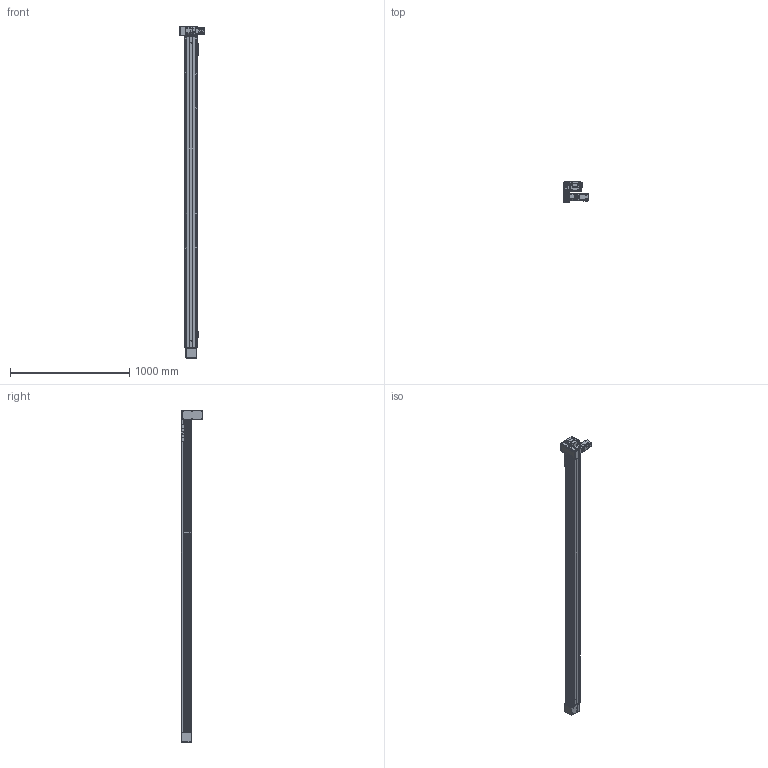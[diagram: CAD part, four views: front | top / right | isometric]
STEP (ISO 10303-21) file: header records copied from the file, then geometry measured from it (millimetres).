
FILE_DESCRIPTION(/* description */ ('MANUFACTURE'),/* implementation_level */ '2;1');
FILE_NAME(/* name */ '\\192.168.0.160\disk1\HAN SHIN Master\B-설계부문\C-표준\B-2024년\BC02-표준도면\+로봇 개선표준도면\홈페이지 표준 도면\홈페이지 최종 작업 폴더\3D\HSB\HSB90\DL\HSB90-DL2G-N-2400-R.stp',/* time_stamp */ '2025-04-25T15:24:55+09:00',/* author */ ('user'),/* organization */ (''),/* preprocessor_version */ 'ST-DEVELOPER v18.1',/* originating_system */ 'Autodesk Inventor 2022',/* authorisation */ 'LIP');
FILE_SCHEMA (('CONFIG_CONTROL_DESIGN'));
Products named in the file (31): HSB90-DL2G-N-0500-R; HSB90 BASE; HS90 TABLE-SR20W; HSB90 FRONT HOUSING (Connecting Shaft); HSB90 REAR HOUSING; HSB90 COVER; SIDE COVER; UPCOVER; HSB55 TENSION PLATE; HG90STOPPER - 27L; HSB90 REAR PULLEY; NSK_6903; HSB55 REAR SHAFT; HSB55 ACRYL COVER; PGX62-H-1_3; hg-kr23_; MOTOR PLATE-200W(MITSUBISHI); HSB90 END COVER; HSB160 BEARING OVER; HSB160 SHAFT-1; NSK_6006; HR120 SENSOR DOG; hsr_ftht_A-M6F_grease_nipple_joint; NIPPLE CAP(신규); SENSOR BRK(EE-SX674A); EE_SX674A; HR65-BELT COVER-COVER3; HR75-LR-BELT COVER(200W); HSB75 D MOTOR PLATE-N; HR75-BELT COVER-COVER; HR75-BELT COVER-COVER2
Assembly tree (48 placements, depth 2):
  HSB90-DL2G-N-0500-R
    HSB90 BASE
    HS90 TABLE-SR20W
    HSB90 FRONT HOUSING (Connecting Shaft)
    HSB90 COVER  x2
    HSB90 REAR HOUSING
    SIDE COVER  x2
    UPCOVER
    HSB55 TENSION PLATE  x2
    HG90STOPPER - 27L  x4
    HSB90 REAR PULLEY
    NSK_6903  x2
    HSB55 REAR SHAFT
    HSB55 ACRYL COVER  x4
    PGX62-H-1_3
    hg-kr23_
    MOTOR PLATE-200W(MITSUBISHI)
    HSB90 END COVER
    HSB160 BEARING OVER
    HSB160 SHAFT-1
    NSK_6006  x2
    SENSOR BRK(EE-SX674A)  x3
    EE_SX674A  x3
    HR120 SENSOR DOG
    hsr_ftht_A-M6F_grease_nipple_joint  x2
    NIPPLE CAP(신규)  x2
    HR75-BELT COVER-COVER2  x2
    HR65-BELT COVER-COVER3
    HR75-LR-BELT COVER(200W)
    HSB75 D MOTOR PLATE-N
    HR75-BELT COVER-COVER
Bounding box: 206.6 x 181.5 x 2785 mm (x, y, z)
Volume: 8092761.4 mm3; surface area: 3066716.4 mm2
Topology: 123 solids, 123 shells, 6495 faces, 18092 edges, 11929 vertices
Faces by surface type: plane 4855, cylinder 1202, cone 300, sphere 70, torus 49, bspline 19
Full cylindrical faces by diameter (mm): 2.013 x4, 2.459 x76, 3.242 x50, 3.3 x5, 3.4 x22, 3.5 x22, 4 x1, 4.134 x60, 4.2 x10, 4.5 x34, 4.917 x32, 5 x24, 5.5 x42, 5.6 x10, 5.8 x4, 5.9 x8, 6 x10, 6.5 x4, 7 x1, 8 x13, 8.5 x4, 9 x4, 9.5 x34, 14 x3, 14.2 x1, 15 x5, 16 x2, 16.2 x2, 17 x7, 19.8 x3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
Entity records: 149737 total; most frequent: CARTESIAN_POINT 29411, ORIENTED_EDGE 24974, DIRECTION 24159, EDGE_CURVE 12487, LINE 9343, VECTOR 9343, VERTEX_POINT 8318, AXIS2_PLACEMENT_3D 7408
